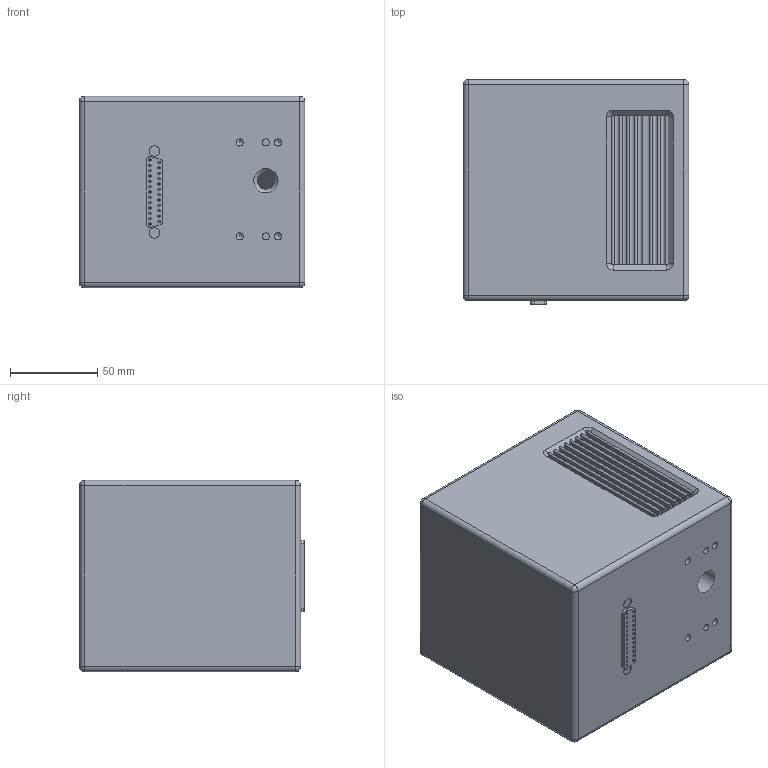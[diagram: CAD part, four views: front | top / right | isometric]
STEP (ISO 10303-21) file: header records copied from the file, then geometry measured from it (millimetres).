
FILE_DESCRIPTION( ( 'Unknown' ), '1' );
FILE_NAME( 'C:/Users/guow115776/Desktop/10mm杅趼源芛俋倛.stp', 'Unknown', ( 'Unknown' ), ( 'Unknown' ), 'XStep 1.0', 'Unknown', ' ' );
FILE_SCHEMA( ( 'automotive_design' ) );
Length unit declared in the file: millimetre
Products named in the file (2): 1; 2
Bounding box: 129.7 x 129.1 x 110 mm (x, y, z)
Volume: 1472913.3 mm3; surface area: 162095 mm2
Topology: 2 solids, 7 shells, 400 faces, 937 edges, 592 vertices
Faces by surface type: plane 226, cylinder 149, cone 17, sphere 8
Full cylindrical faces by diameter (mm): 1.3 x25, 2.013 x2, 2.459 x2, 3.242 x8, 4 x2, 4.134 x4, 6 x2, 6.225 x1, 6.738 x1, 9.8 x1, 14 x1, 22 x2, 23 x2, 35 x2, 39 x2, 51 x1, 79 x1, 81 x1
Entity records: 14314 total; most frequent: CARTESIAN_POINT 2115, DIRECTION 1943, ORIENTED_EDGE 1678, EDGE_CURVE 839, AXIS2_PLACEMENT_3D 725, VERTEX_POINT 577, EDGE_LOOP 524, LINE 493
